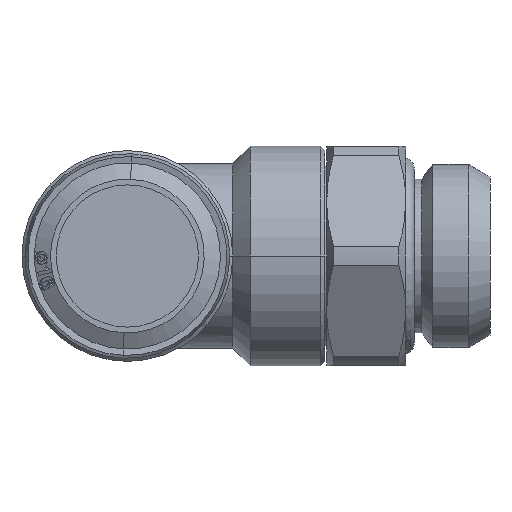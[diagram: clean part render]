
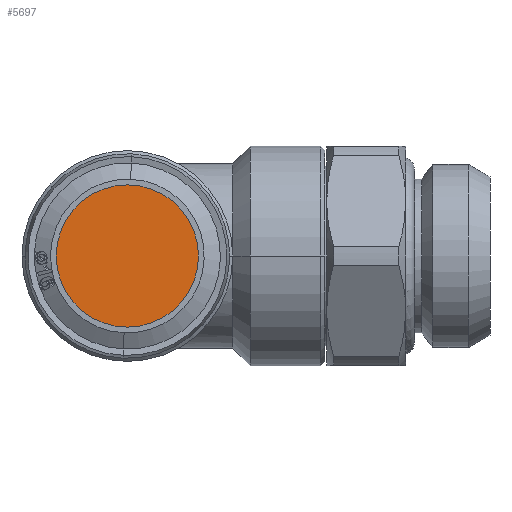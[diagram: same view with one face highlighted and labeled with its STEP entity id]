
A CAD part, left-side view. The second image highlights one B-rep face of the part: STEP entity #5697.
In plain terms, the highlighted planar face has unit normal (-1, 0, 0).
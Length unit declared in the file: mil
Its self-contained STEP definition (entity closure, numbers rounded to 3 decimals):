
#424 = EDGE_CURVE ( 'NONE', #3101, #1015, #5792, .T. ) ;
#761 = ORIENTED_EDGE ( 'NONE', *, *, #424, .T. ) ;
#1015 = VERTEX_POINT ( 'NONE', #2130 ) ;
#1549 = CARTESIAN_POINT ( 'NONE',  ( -366.142, 0., 0. ) ) ;
#1582 = EDGE_CURVE ( 'NONE', #1015, #3101, #2641, .T. ) ;
#2130 = CARTESIAN_POINT ( 'NONE',  ( -366.142, 0., -318.898 ) ) ;
#2641 = CIRCLE ( 'NONE', #3919, 318.898 ) ;
#3101 = VERTEX_POINT ( 'NONE', #6574 ) ;
#3417 = AXIS2_PLACEMENT_3D ( 'NONE', #11179, #10111, #5118 ) ;
#3919 = AXIS2_PLACEMENT_3D ( 'NONE', #1549, #5605, #8673 ) ;
#5118 = DIRECTION ( 'NONE',  ( 0., 1., 0. ) ) ;
#5605 = DIRECTION ( 'NONE',  ( -1., 0., 0. ) ) ;
#5653 = ORIENTED_EDGE ( 'NONE', *, *, #1582, .T. ) ;
#5697 = ADVANCED_FACE ( 'NONE', ( #12374 ), #6066, .T. ) ;
#5792 = CIRCLE ( 'NONE', #12160, 318.898 ) ;
#6066 = PLANE ( 'NONE',  #3417 ) ;
#6425 = DIRECTION ( 'NONE',  ( -1., 0., 0. ) ) ;
#6574 = CARTESIAN_POINT ( 'NONE',  ( -366.142, 0., 318.898 ) ) ;
#7160 = CARTESIAN_POINT ( 'NONE',  ( -366.142, 0., 0. ) ) ;
#8168 = DIRECTION ( 'NONE',  ( 0., 0., 1. ) ) ;
#8673 = DIRECTION ( 'NONE',  ( 0., 0., 1. ) ) ;
#8868 = EDGE_LOOP ( 'NONE', ( #761, #5653 ) ) ;
#10111 = DIRECTION ( 'NONE',  ( -1., 0., 0. ) ) ;
#11179 = CARTESIAN_POINT ( 'NONE',  ( -366.142, 0., 0. ) ) ;
#12160 = AXIS2_PLACEMENT_3D ( 'NONE', #7160, #6425, #8168 ) ;
#12374 = FACE_OUTER_BOUND ( 'NONE', #8868, .T. ) ;
